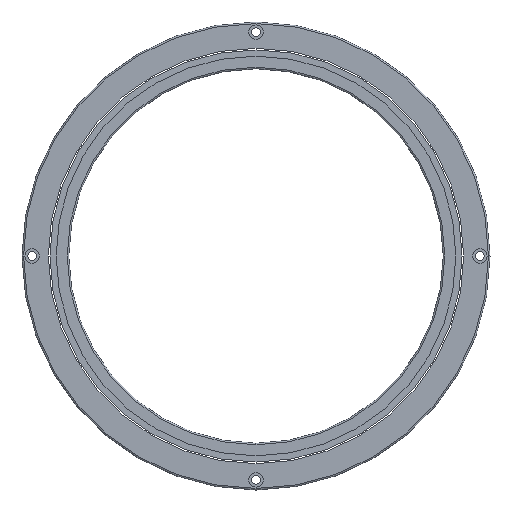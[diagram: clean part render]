
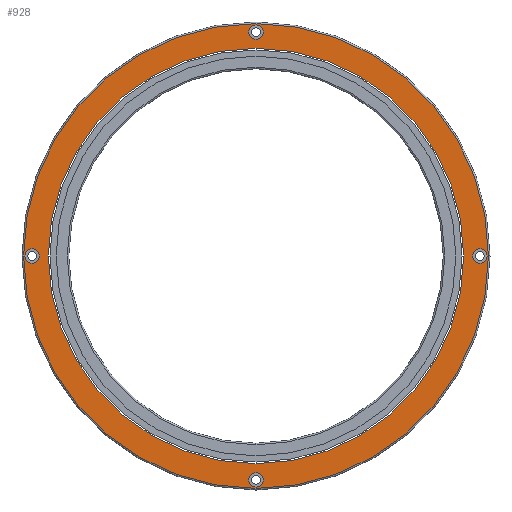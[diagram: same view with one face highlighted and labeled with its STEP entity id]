
A CAD part, front view. The second image highlights one B-rep face of the part: STEP entity #928.
In plain terms, the highlighted planar face has unit normal (0, -1, 0).
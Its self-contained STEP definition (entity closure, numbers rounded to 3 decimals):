
#43=CARTESIAN_POINT('',(0.,0.,0.));
#44=DIRECTION('',(0.,-1.,0.));
#45=DIRECTION('',(-1.,0.,0.));
#46=AXIS2_PLACEMENT_3D('',#43,#44,#45);
#48=CARTESIAN_POINT('',(0.,0.,0.));
#49=DIRECTION('',(0.,1.,0.));
#50=DIRECTION('',(-1.,0.,0.));
#51=AXIS2_PLACEMENT_3D('',#48,#49,#50);
#53=CARTESIAN_POINT('',(-71.75,0.,0.));
#54=DIRECTION('',(0.,1.,0.));
#55=DIRECTION('',(1.,0.,0.));
#56=AXIS2_PLACEMENT_3D('',#53,#54,#55);
#58=CARTESIAN_POINT('',(-71.75,0.,0.));
#59=DIRECTION('',(0.,1.,0.));
#60=DIRECTION('',(-1.,0.,0.));
#61=AXIS2_PLACEMENT_3D('',#58,#59,#60);
#63=CARTESIAN_POINT('',(0.,0.,71.75));
#64=DIRECTION('',(0.,1.,0.));
#65=DIRECTION('',(0.,0.,-1.));
#66=AXIS2_PLACEMENT_3D('',#63,#64,#65);
#68=CARTESIAN_POINT('',(0.,0.,71.75));
#69=DIRECTION('',(0.,1.,0.));
#70=DIRECTION('',(0.,0.,1.));
#71=AXIS2_PLACEMENT_3D('',#68,#69,#70);
#73=CARTESIAN_POINT('',(71.75,0.,0.));
#74=DIRECTION('',(0.,1.,0.));
#75=DIRECTION('',(-1.,0.,0.));
#76=AXIS2_PLACEMENT_3D('',#73,#74,#75);
#78=CARTESIAN_POINT('',(71.75,0.,0.));
#79=DIRECTION('',(0.,1.,0.));
#80=DIRECTION('',(1.,0.,0.));
#81=AXIS2_PLACEMENT_3D('',#78,#79,#80);
#83=CARTESIAN_POINT('',(0.,0.,-71.75));
#84=DIRECTION('',(0.,1.,0.));
#85=DIRECTION('',(0.,0.,1.));
#86=AXIS2_PLACEMENT_3D('',#83,#84,#85);
#88=CARTESIAN_POINT('',(0.,0.,-71.75));
#89=DIRECTION('',(0.,1.,0.));
#90=DIRECTION('',(0.,0.,-1.));
#91=AXIS2_PLACEMENT_3D('',#88,#89,#90);
#93=CARTESIAN_POINT('',(0.,0.,0.));
#94=DIRECTION('',(0.,1.,0.));
#95=DIRECTION('',(-1.,0.,0.));
#96=AXIS2_PLACEMENT_3D('',#93,#94,#95);
#98=CARTESIAN_POINT('',(0.,0.,0.));
#99=DIRECTION('',(0.,1.,0.));
#100=DIRECTION('',(1.,0.,0.));
#101=AXIS2_PLACEMENT_3D('',#98,#99,#100);
#751=CARTESIAN_POINT('',(-69.45,0.,0.));
#752=VERTEX_POINT('',#751);
#753=CARTESIAN_POINT('',(-74.05,0.,0.));
#754=VERTEX_POINT('',#753);
#763=CARTESIAN_POINT('',(0.,0.,69.45));
#764=VERTEX_POINT('',#763);
#765=CARTESIAN_POINT('',(0.,0.,74.05));
#766=VERTEX_POINT('',#765);
#775=CARTESIAN_POINT('',(69.45,0.,0.));
#776=VERTEX_POINT('',#775);
#777=CARTESIAN_POINT('',(74.05,0.,0.));
#778=VERTEX_POINT('',#777);
#787=CARTESIAN_POINT('',(0.,0.,-69.45));
#788=VERTEX_POINT('',#787);
#789=CARTESIAN_POINT('',(0.,0.,-74.05));
#790=VERTEX_POINT('',#789);
#808=CARTESIAN_POINT('',(-66.55,0.,0.));
#810=VERTEX_POINT('',#808);
#812=CARTESIAN_POINT('',(66.55,0.,0.));
#814=VERTEX_POINT('',#812);
#827=CARTESIAN_POINT('',(-74.5,0.,0.));
#828=CARTESIAN_POINT('',(74.5,0.,0.));
#829=VERTEX_POINT('',#827);
#830=VERTEX_POINT('',#828);
#889=CARTESIAN_POINT('',(0.,0.,0.));
#890=DIRECTION('',(0.,1.,0.));
#891=DIRECTION('',(1.,0.,0.));
#892=AXIS2_PLACEMENT_3D('',#889,#890,#891);
#893=PLANE('',#892);
#895=ORIENTED_EDGE('',*,*,#894,.T.);
#897=ORIENTED_EDGE('',*,*,#896,.T.);
#898=EDGE_LOOP('',(#895,#897));
#899=FACE_OUTER_BOUND('',#898,.F.);
#900=ORIENTED_EDGE('',*,*,#868,.F.);
#901=ORIENTED_EDGE('',*,*,#884,.F.);
#902=EDGE_LOOP('',(#900,#901));
#903=FACE_BOUND('',#902,.F.);
#905=ORIENTED_EDGE('',*,*,#904,.F.);
#907=ORIENTED_EDGE('',*,*,#906,.F.);
#908=EDGE_LOOP('',(#905,#907));
#909=FACE_BOUND('',#908,.F.);
#911=ORIENTED_EDGE('',*,*,#910,.F.);
#913=ORIENTED_EDGE('',*,*,#912,.F.);
#914=EDGE_LOOP('',(#911,#913));
#915=FACE_BOUND('',#914,.F.);
#917=ORIENTED_EDGE('',*,*,#916,.F.);
#919=ORIENTED_EDGE('',*,*,#918,.F.);
#920=EDGE_LOOP('',(#917,#919));
#921=FACE_BOUND('',#920,.F.);
#923=ORIENTED_EDGE('',*,*,#922,.T.);
#925=ORIENTED_EDGE('',*,*,#924,.F.);
#926=EDGE_LOOP('',(#923,#925));
#927=FACE_BOUND('',#926,.F.);
#47=CIRCLE('',#46,66.55);
#52=CIRCLE('',#51,66.55);
#57=CIRCLE('',#56,2.3);
#62=CIRCLE('',#61,2.3);
#67=CIRCLE('',#66,2.3);
#72=CIRCLE('',#71,2.3);
#77=CIRCLE('',#76,2.3);
#82=CIRCLE('',#81,2.3);
#87=CIRCLE('',#86,2.3);
#92=CIRCLE('',#91,2.3);
#97=CIRCLE('',#96,74.5);
#102=CIRCLE('',#101,74.5);
#868=EDGE_CURVE('',#752,#754,#57,.T.);
#884=EDGE_CURVE('',#754,#752,#62,.T.);
#894=EDGE_CURVE('',#829,#830,#97,.T.);
#896=EDGE_CURVE('',#830,#829,#102,.T.);
#904=EDGE_CURVE('',#764,#766,#67,.T.);
#906=EDGE_CURVE('',#766,#764,#72,.T.);
#910=EDGE_CURVE('',#776,#778,#77,.T.);
#912=EDGE_CURVE('',#778,#776,#82,.T.);
#916=EDGE_CURVE('',#788,#790,#87,.T.);
#918=EDGE_CURVE('',#790,#788,#92,.T.);
#922=EDGE_CURVE('',#810,#814,#47,.T.);
#924=EDGE_CURVE('',#810,#814,#52,.T.);
#928=ADVANCED_FACE('',(#899,#903,#909,#915,#921,#927),#893,.F.);
